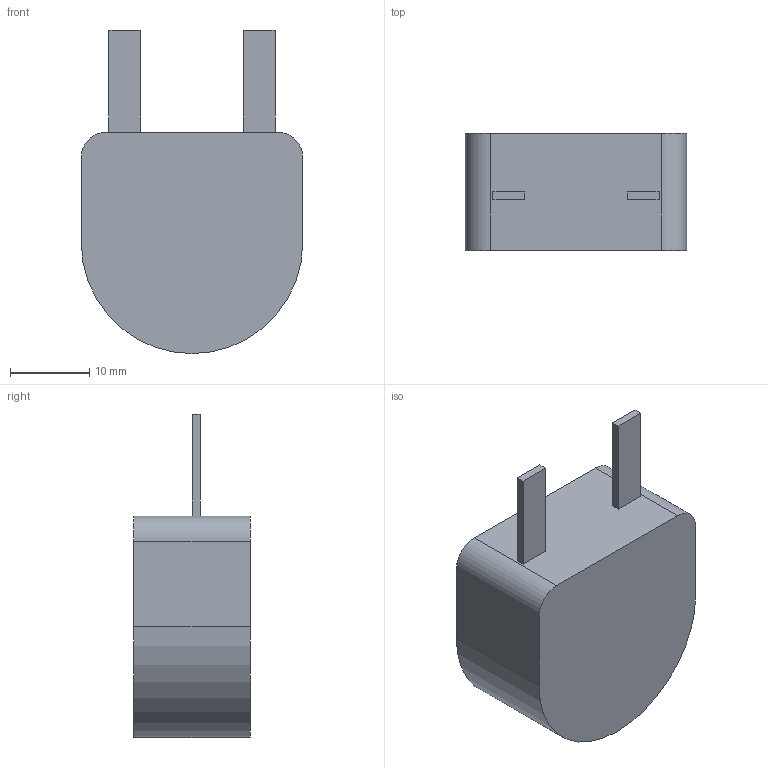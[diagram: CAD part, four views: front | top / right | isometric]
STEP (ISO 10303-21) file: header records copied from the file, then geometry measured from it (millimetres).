
FILE_DESCRIPTION (( 'STEP AP214' ), '1' );
FILE_NAME ('IHXL1100OZEB100K3A.STEP', '2025-08-07T20:39:46', ( '' ), ( '' ), 'SwSTEP 2.0', 'SolidWorks 2024', '' );
FILE_SCHEMA (( 'AUTOMOTIVE_DESIGN' ));
Length unit declared in the file: inch
Products named in the file (1): IHXL1100OZEB100K3A
Bounding box: 27.94 x 14.76 x 40.77 mm (x, y, z)
Volume: 10321.6 mm3; surface area: 3072.6 mm2
Topology: 1 solids, 1 shells, 19 faces, 45 edges, 30 vertices
Faces by surface type: plane 15, cylinder 4
Entity records: 574 total; most frequent: CARTESIAN_POINT 95, DIRECTION 93, ORIENTED_EDGE 90, EDGE_CURVE 45, LINE 37, VECTOR 37, VERTEX_POINT 30, AXIS2_PLACEMENT_3D 28
